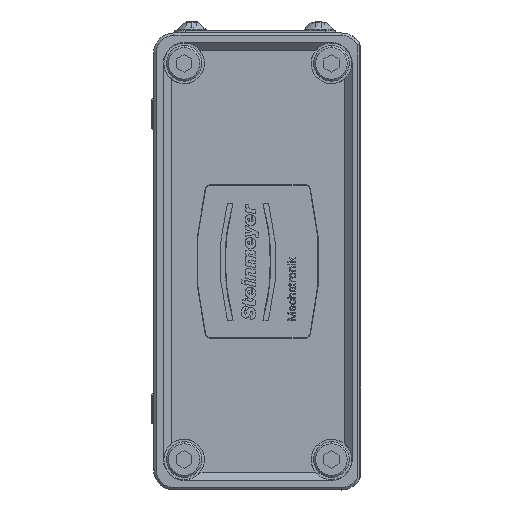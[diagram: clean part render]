
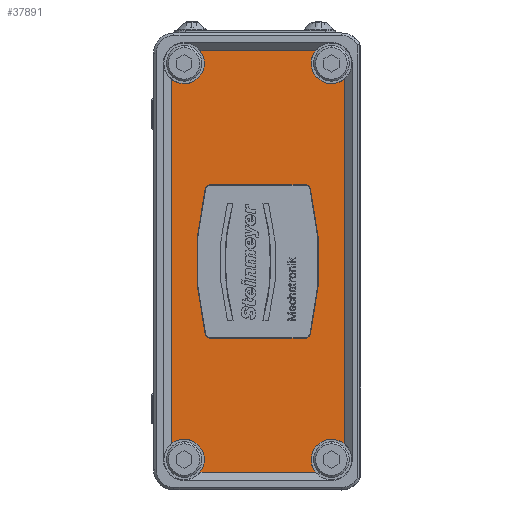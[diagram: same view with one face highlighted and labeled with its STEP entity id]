
A CAD part, left-side view. The second image highlights one B-rep face of the part: STEP entity #37891.
In plain terms, the highlighted planar face has unit normal (-1, 0, 0) as drawn and (0, 0, 1) by its records, which use the part's own axes.
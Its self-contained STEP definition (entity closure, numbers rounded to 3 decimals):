
#10373=CARTESIAN_POINT('',(-39.,6.,132.));
#10374=DIRECTION('',(0.,0.,1.));
#10375=DIRECTION('',(0.781,-0.625,0.));
#10376=AXIS2_PLACEMENT_3D('',#10373,#10374,#10375);
#10381=CARTESIAN_POINT('',(-39.,6.,132.));
#10382=DIRECTION('',(0.,0.,1.));
#10383=DIRECTION('',(0.,1.,0.));
#10384=AXIS2_PLACEMENT_3D('',#10381,#10382,#10383);
#10389=DIRECTION('',(0.,1.,0.));
#10390=VECTOR('',#10389,22.755);
#10391=CARTESIAN_POINT('',(-41.5,9.122,132.));
#10392=LINE('1429',#10391,#10390);
#10396=CARTESIAN_POINT('',(-39.,35.,132.));
#10397=DIRECTION('',(0.,0.,1.));
#10398=DIRECTION('',(-0.625,-0.781,0.));
#10399=AXIS2_PLACEMENT_3D('',#10396,#10397,#10398);
#10404=CARTESIAN_POINT('',(-39.,35.,132.));
#10405=DIRECTION('',(0.,0.,1.));
#10406=DIRECTION('',(0.,-1.,0.));
#10407=AXIS2_PLACEMENT_3D('',#10404,#10405,#10406);
#10412=DIRECTION('',(1.,0.,0.));
#10413=VECTOR('',#10412,71.755);
#10414=CARTESIAN_POINT('',(-35.878,37.5,132.));
#10415=LINE('1432',#10414,#10413);
#10419=CARTESIAN_POINT('',(39.,35.,132.));
#10420=DIRECTION('',(0.,0.,1.));
#10421=DIRECTION('',(-0.781,0.625,0.));
#10422=AXIS2_PLACEMENT_3D('',#10419,#10420,#10421);
#10427=CARTESIAN_POINT('',(39.,35.,132.));
#10428=DIRECTION('',(0.,0.,1.));
#10429=DIRECTION('',(0.,-1.,0.));
#10430=AXIS2_PLACEMENT_3D('',#10427,#10428,#10429);
#10435=DIRECTION('',(0.,-1.,0.));
#10436=VECTOR('',#10435,22.755);
#10437=CARTESIAN_POINT('',(41.5,31.878,132.));
#10438=LINE('1434',#10437,#10436);
#10442=CARTESIAN_POINT('',(39.,6.,132.));
#10443=DIRECTION('',(0.,0.,1.));
#10444=DIRECTION('',(0.625,0.781,0.));
#10445=AXIS2_PLACEMENT_3D('',#10442,#10443,#10444);
#10450=CARTESIAN_POINT('',(39.,6.,132.));
#10451=DIRECTION('',(0.,0.,1.));
#10452=DIRECTION('',(0.,1.,0.));
#10453=AXIS2_PLACEMENT_3D('',#10450,#10451,#10452);
#10458=DIRECTION('',(-1.,0.,0.));
#10459=VECTOR('',#10458,71.755);
#10460=CARTESIAN_POINT('',(35.878,3.5,132.));
#10461=LINE('1437',#10460,#10459);
#10465=CARTESIAN_POINT('',(14.,29.815,132.));
#10466=DIRECTION('',(0.,0.,1.));
#10467=DIRECTION('',(1.,0.,0.));
#10468=AXIS2_PLACEMENT_3D('',#10465,#10466,#10467);
#10473=CARTESIAN_POINT('',(0.,-27.5,132.));
#10474=DIRECTION('',(0.,0.,1.));
#10475=DIRECTION('',(0.237,0.971,0.));
#10476=AXIS2_PLACEMENT_3D('',#10473,#10474,#10475);
#10481=CARTESIAN_POINT('',(-14.,29.815,132.));
#10482=DIRECTION('',(0.,0.,1.));
#10483=DIRECTION('',(-0.237,0.971,0.));
#10484=AXIS2_PLACEMENT_3D('',#10481,#10482,#10483);
#10489=CARTESIAN_POINT('',(-14.,11.185,132.));
#10490=DIRECTION('',(0.,0.,1.));
#10491=DIRECTION('',(-1.,0.,0.));
#10492=AXIS2_PLACEMENT_3D('',#10489,#10490,#10491);
#10497=CARTESIAN_POINT('',(0.,68.5,132.));
#10498=DIRECTION('',(0.,0.,1.));
#10499=DIRECTION('',(-0.237,-0.971,0.));
#10500=AXIS2_PLACEMENT_3D('',#10497,#10498,#10499);
#10505=CARTESIAN_POINT('',(14.,11.185,132.));
#10506=DIRECTION('',(0.,0.,1.));
#10507=DIRECTION('',(0.237,-0.971,0.));
#10508=AXIS2_PLACEMENT_3D('',#10505,#10506,#10507);
#11661=DIRECTION('',(0.,-1.,0.));
#11662=VECTOR('',#11661,18.63);
#11663=CARTESIAN_POINT('',(15.1,29.815,132.));
#11664=LINE('1445',#11663,#11662);
#11696=DIRECTION('',(0.,1.,0.));
#11697=VECTOR('',#11696,18.63);
#11698=CARTESIAN_POINT('',(-15.1,11.185,132.));
#11699=LINE('1441',#11698,#11697);
#22556=CARTESIAN_POINT('',(39.,31.,132.));
#22557=CARTESIAN_POINT('',(41.5,31.878,132.));
#22558=VERTEX_POINT('',#22556);
#22559=VERTEX_POINT('',#22557);
#22565=CARTESIAN_POINT('',(-35.878,3.5,132.));
#22566=CARTESIAN_POINT('',(-39.,10.,132.));
#22567=VERTEX_POINT('',#22565);
#22568=VERTEX_POINT('',#22566);
#22569=CARTESIAN_POINT('',(-41.5,9.122,132.));
#22570=VERTEX_POINT('',#22569);
#22571=CARTESIAN_POINT('',(-41.5,31.878,132.));
#22572=VERTEX_POINT('',#22571);
#22573=CARTESIAN_POINT('',(-39.,31.,132.));
#22574=VERTEX_POINT('',#22573);
#22575=CARTESIAN_POINT('',(-35.878,37.5,132.));
#22576=VERTEX_POINT('',#22575);
#22577=CARTESIAN_POINT('',(35.878,37.5,132.));
#22578=VERTEX_POINT('',#22577);
#22579=CARTESIAN_POINT('',(41.5,9.122,132.));
#22580=VERTEX_POINT('',#22579);
#22581=CARTESIAN_POINT('',(39.,10.,132.));
#22582=VERTEX_POINT('',#22581);
#22583=CARTESIAN_POINT('',(35.878,3.5,132.));
#22584=VERTEX_POINT('',#22583);
#22585=CARTESIAN_POINT('',(15.1,29.815,132.));
#22586=CARTESIAN_POINT('',(14.261,30.884,132.));
#22587=VERTEX_POINT('',#22585);
#22588=VERTEX_POINT('',#22586);
#22589=CARTESIAN_POINT('',(-14.261,30.884,132.));
#22590=VERTEX_POINT('',#22589);
#22591=CARTESIAN_POINT('',(-15.1,29.815,132.));
#22592=VERTEX_POINT('',#22591);
#22593=CARTESIAN_POINT('',(-15.1,11.185,132.));
#22594=VERTEX_POINT('',#22593);
#22595=CARTESIAN_POINT('',(-14.261,10.116,132.));
#22596=VERTEX_POINT('',#22595);
#22597=CARTESIAN_POINT('',(14.261,10.116,132.));
#22598=VERTEX_POINT('',#22597);
#22599=CARTESIAN_POINT('',(15.1,11.185,132.));
#22600=VERTEX_POINT('',#22599);
#37843=CARTESIAN_POINT('',(45.,20.5,132.));
#37844=DIRECTION('',(0.,0.,1.));
#37845=DIRECTION('',(1.,0.,0.));
#37846=AXIS2_PLACEMENT_3D('',#37843,#37844,#37845);
#37847=PLANE('276',#37846);
#37849=ORIENTED_EDGE('1427',*,*,#37848,.T.);
#37851=ORIENTED_EDGE('1428',*,*,#37850,.T.);
#37853=ORIENTED_EDGE('1429',*,*,#37852,.T.);
#37855=ORIENTED_EDGE('1430',*,*,#37854,.T.);
#37857=ORIENTED_EDGE('1431',*,*,#37856,.T.);
#37859=ORIENTED_EDGE('1432',*,*,#37858,.T.);
#37861=ORIENTED_EDGE('1433',*,*,#37860,.T.);
#37862=ORIENTED_EDGE('1421',*,*,#37820,.T.);
#37864=ORIENTED_EDGE('1434',*,*,#37863,.T.);
#37866=ORIENTED_EDGE('1435',*,*,#37865,.T.);
#37868=ORIENTED_EDGE('1436',*,*,#37867,.T.);
#37870=ORIENTED_EDGE('1437',*,*,#37869,.T.);
#37871=EDGE_LOOP('276',(#37849,#37851,#37853,#37855,#37857,#37859,#37861,#37862,
#37864,#37866,#37868,#37870));
#37872=FACE_OUTER_BOUND('276',#37871,.F.);
#37874=ORIENTED_EDGE('1438',*,*,#37873,.T.);
#37876=ORIENTED_EDGE('1439',*,*,#37875,.T.);
#37878=ORIENTED_EDGE('1440',*,*,#37877,.T.);
#37880=ORIENTED_EDGE('1441',*,*,#37879,.F.);
#37882=ORIENTED_EDGE('1442',*,*,#37881,.T.);
#37884=ORIENTED_EDGE('1443',*,*,#37883,.T.);
#37886=ORIENTED_EDGE('1444',*,*,#37885,.T.);
#37888=ORIENTED_EDGE('1445',*,*,#37887,.F.);
#37889=EDGE_LOOP('276',(#37874,#37876,#37878,#37880,#37882,#37884,#37886,
#37888));
#37890=FACE_BOUND('276',#37889,.F.);
#10377=CIRCLE('1427',#10376,4.);
#10385=CIRCLE('1428',#10384,4.);
#10400=CIRCLE('1430',#10399,4.);
#10408=CIRCLE('1431',#10407,4.);
#10423=CIRCLE('1433',#10422,4.);
#10431=CIRCLE('1421',#10430,4.);
#10446=CIRCLE('1435',#10445,4.);
#10454=CIRCLE('1436',#10453,4.);
#10469=CIRCLE('1438',#10468,1.1);
#10477=CIRCLE('1439',#10476,60.1);
#10485=CIRCLE('1440',#10484,1.1);
#10493=CIRCLE('1442',#10492,1.1);
#10501=CIRCLE('1443',#10500,60.1);
#10509=CIRCLE('1444',#10508,1.1);
#37820=EDGE_CURVE('1421',#22558,#22559,#10431,.T.);
#37848=EDGE_CURVE('1427',#22567,#22568,#10377,.T.);
#37850=EDGE_CURVE('1428',#22568,#22570,#10385,.T.);
#37852=EDGE_CURVE('1429',#22570,#22572,#10392,.T.);
#37854=EDGE_CURVE('1430',#22572,#22574,#10400,.T.);
#37856=EDGE_CURVE('1431',#22574,#22576,#10408,.T.);
#37858=EDGE_CURVE('1432',#22576,#22578,#10415,.T.);
#37860=EDGE_CURVE('1433',#22578,#22558,#10423,.T.);
#37863=EDGE_CURVE('1434',#22559,#22580,#10438,.T.);
#37865=EDGE_CURVE('1435',#22580,#22582,#10446,.T.);
#37867=EDGE_CURVE('1436',#22582,#22584,#10454,.T.);
#37869=EDGE_CURVE('1437',#22584,#22567,#10461,.T.);
#37873=EDGE_CURVE('1438',#22587,#22588,#10469,.T.);
#37875=EDGE_CURVE('1439',#22588,#22590,#10477,.T.);
#37877=EDGE_CURVE('1440',#22590,#22592,#10485,.T.);
#37879=EDGE_CURVE('1441',#22594,#22592,#11699,.T.);
#37881=EDGE_CURVE('1442',#22594,#22596,#10493,.T.);
#37883=EDGE_CURVE('1443',#22596,#22598,#10501,.T.);
#37885=EDGE_CURVE('1444',#22598,#22600,#10509,.T.);
#37887=EDGE_CURVE('1445',#22587,#22600,#11664,.T.);
#37891=ADVANCED_FACE('276',(#37872,#37890),#37847,.T.);
